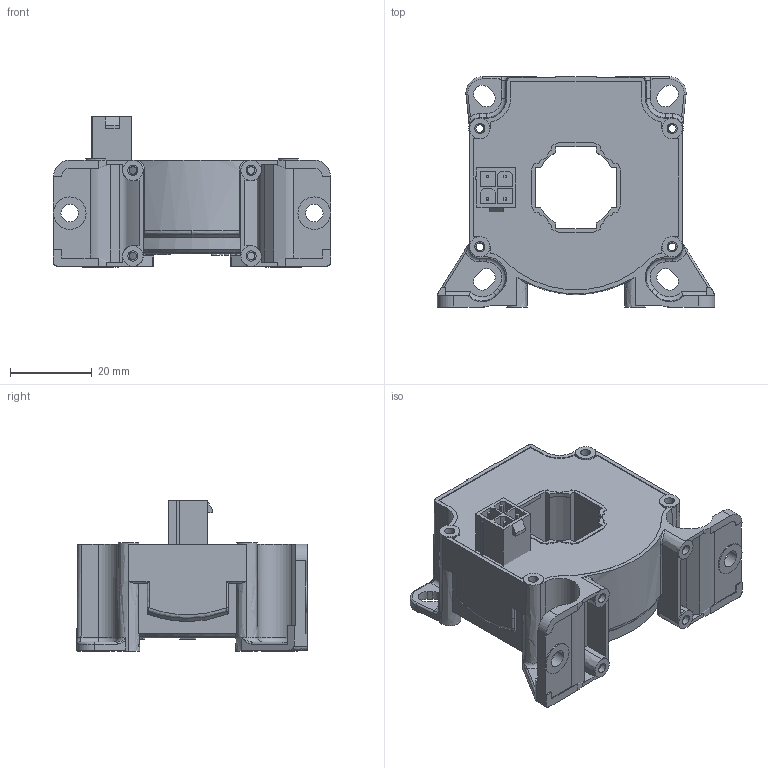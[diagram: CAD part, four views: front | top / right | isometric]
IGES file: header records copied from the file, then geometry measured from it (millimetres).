
Start section: Elysium IGES Interface
Global section: file name: \\Gva50\sd-data\Etudes\GVu\Serie_blackbox\LF 305-S_SP10_blackbox\LF 305-S_SP10_blackbox.igs; native system: SolidDesigner 16.00A  16-Aug-2008; preprocessor: CoCreate IGES_3D V2.2; author: Unknown; organization: Unknown; date: 20090316.152905; units: millimetre
Bounding box: 68 x 56.53 x 37 mm (x, y, z)
Volume: 49691.5 mm3; surface area: 21271.5 mm2
Topology: 3 solids, 3 shells, 1035 faces, 2807 edges, 1834 vertices
Faces by surface type: bspline 1035
